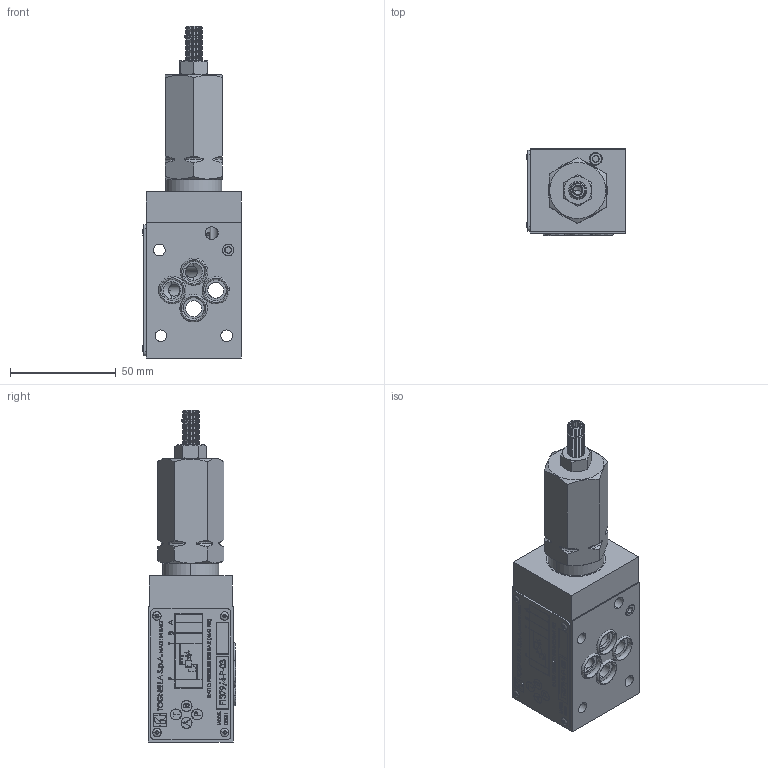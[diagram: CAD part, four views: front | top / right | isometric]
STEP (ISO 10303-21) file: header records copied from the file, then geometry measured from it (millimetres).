
FILE_DESCRIPTION (( 'STEP AP214' ), '1' );
FILE_NAME ('ASSIEME 379-4-P.STEP', '2019-10-14T08:52:08', ( '' ), ( '' ), 'SwSTEP 2.0', 'SolidWorks 2018', '' );
FILE_SCHEMA (( 'AUTOMOTIVE_DESIGN' ));
Length unit declared in the file: millimetre
Products named in the file (23): MOLLA CILINDRICA 276-4.009.00.1-78; DADO ESAGONALE M8x1 Sp.6.5 mm; BUSSOLA 279-4.034.00.0-78; ANELLO DI SICUREZZA RB7 DIN  7993; OR  3075; CORPO VALVOLA 379-3-P.001.00.0-03; BK2050; OR 2037; TARGHETTA 379-4-P.015.00.0-03; PISTONE 279-4.019.00.0-78; PISTONE OTTURATORE 276-4.050.00.0-78; VITE DI REGOLAZIONE 276-4.017.00.0-78; BUSSOLA DI TENUTA 276-4.018.00.0-78; SFERA D= 4mm; MOLLA COMPENSATORE 276-4.030.00-1-78; TAPPO EIS ETRS060SM UNIFAST; OR 108; RIVETTO D=2 x L=4.6 TAPDM1BS LD FASTENERS; OR2050-1; ASSIEME 279-4-78-UNF; ASSIEME 379-4-P; O-RING 2037; CORPO CARTUCCIA 279-4.101.00.0-78
Assembly tree (30 placements, depth 3):
  ASSIEME 379-4-P
    TARGHETTA 379-4-P.015.00.0-03
    O-RING 2037  x4
    RIVETTO D=2 x L=4.6 TAPDM1BS LD FASTENERS  x4
    TAPPO EIS ETRS060SM UNIFAST  x2
    ASSIEME 279-4-78-UNF
      CORPO CARTUCCIA 279-4.101.00.0-78
      BK2050  x2
      OR2050-1
      BUSSOLA 279-4.034.00.0-78
      PISTONE 279-4.019.00.0-78
      ANELLO DI SICUREZZA RB7 DIN  7993
      BUSSOLA DI TENUTA 276-4.018.00.0-78
      DADO ESAGONALE M8x1 Sp.6.5 mm
      MOLLA CILINDRICA 276-4.009.00.1-78
      MOLLA COMPENSATORE 276-4.030.00-1-78
      OR  3075
      OR 108
      OR 2037
      PISTONE OTTURATORE 276-4.050.00.0-78
      SFERA D= 4mm
      VITE DI REGOLAZIONE 276-4.017.00.0-78
    CORPO VALVOLA 379-3-P.001.00.0-03
Bounding box: 46.66 x 41.17 x 156.8 mm (x, y, z)
Volume: 159476.3 mm3; surface area: 57283.9 mm2
Topology: 29 solids, 29 shells, 2566 faces, 6223 edges, 3909 vertices
Faces by surface type: plane 1152, cone 664, bspline 394, cylinder 300, torus 46, sphere 10
Entity records: 111690 total; most frequent: CARTESIAN_POINT 41851, ORIENTED_EDGE 11896, DIRECTION 10293, EDGE_CURVE 5948, VERTEX_POINT 3750, LINE 3733, VECTOR 3733, AXIS2_PLACEMENT_3D 3280
